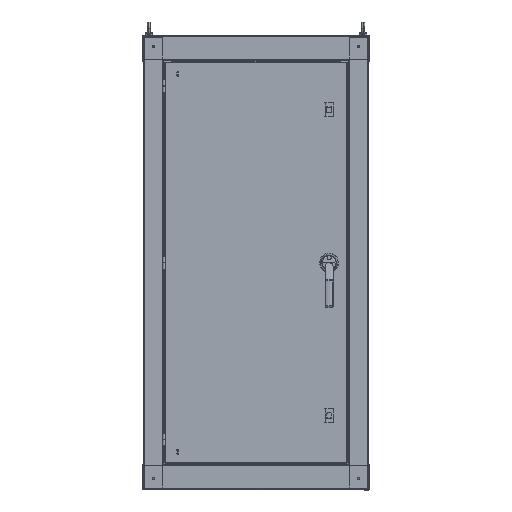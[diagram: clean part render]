
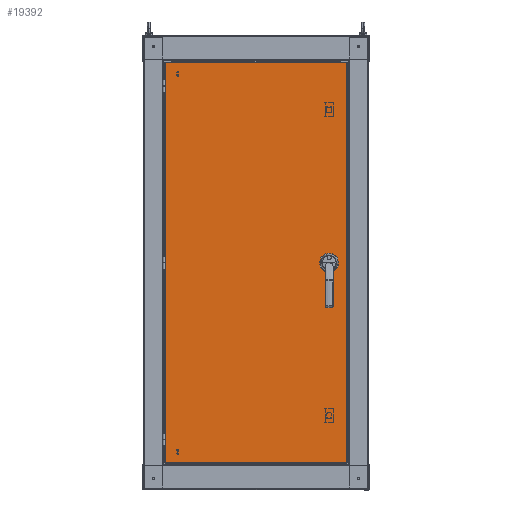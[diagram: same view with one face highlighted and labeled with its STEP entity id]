
A CAD part, top view. The second image highlights one B-rep face of the part: STEP entity #19392.
In plain terms, the highlighted planar face has unit normal (0, 0, 1) as drawn and (0, 0, -1) by its records, which use the part's own axes.
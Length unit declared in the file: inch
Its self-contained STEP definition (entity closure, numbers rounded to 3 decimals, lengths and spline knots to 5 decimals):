
#10344 = CARTESIAN_POINT ( 'NONE',  ( 12.498, 0., 0. ) ) ;
#10367 = DIRECTION ( 'NONE',  ( 0., 0., 1. ) ) ;
#10368 = DIRECTION ( 'NONE',  ( 1., 0., 0. ) ) ;
#10836 = CIRCLE ( 'NONE', #63385, 0.1405 ) ;
#10953 = CIRCLE ( 'NONE', #63414, 0.2815 ) ;
#11006 = CIRCLE ( 'NONE', #63421, 0.1245 ) ;
#13273 = CARTESIAN_POINT ( 'NONE',  ( 11.592, 0., 0. ) ) ;
#13274 = DIRECTION ( 'NONE',  ( 0., 0., 1. ) ) ;
#13275 = DIRECTION ( 'NONE',  ( 1., 0., 0. ) ) ;
#13381 = CARTESIAN_POINT ( 'NONE',  ( -12.408, -29.72, 0. ) ) ;
#13384 = DIRECTION ( 'NONE',  ( 0., 0., 1. ) ) ;
#13385 = DIRECTION ( 'NONE',  ( 1., 0., 0. ) ) ;
#16963 = CARTESIAN_POINT ( 'NONE',  ( -14.38016, 31.69, 0. ) ) ;
#16965 = DIRECTION ( 'NONE',  ( 1., 0., 0. ) ) ;
#16971 = CARTESIAN_POINT ( 'NONE',  ( -14.378, -31.69216, 0. ) ) ;
#17002 = CARTESIAN_POINT ( 'NONE',  ( 10.686, 0., 0. ) ) ;
#17011 = CARTESIAN_POINT ( 'NONE',  ( -12.408, -29.72, 0. ) ) ;
#17014 = DIRECTION ( 'NONE',  ( 0., 1., 0. ) ) ;
#17017 = DIRECTION ( 'NONE',  ( 0., 0., 1. ) ) ;
#17019 = DIRECTION ( 'NONE',  ( 1., 0., 0. ) ) ;
#17023 = DIRECTION ( 'NONE',  ( 0., 0., 1. ) ) ;
#17024 = DIRECTION ( 'NONE',  ( 1., 0., 0. ) ) ;
#17068 = CARTESIAN_POINT ( 'NONE',  ( 14.378, 31.69216, 0. ) ) ;
#17070 = CARTESIAN_POINT ( 'NONE',  ( -12.408, 29.72, 0. ) ) ;
#17085 = CARTESIAN_POINT ( 'NONE',  ( 14.38016, -31.69, 0. ) ) ;
#17087 = DIRECTION ( 'NONE',  ( -1., 0., 0. ) ) ;
#17092 = DIRECTION ( 'NONE',  ( 0., 0., 1. ) ) ;
#17093 = DIRECTION ( 'NONE',  ( 1., 0., 0. ) ) ;
#17095 = CARTESIAN_POINT ( 'NONE',  ( 12.498, 0., 0. ) ) ;
#17098 = DIRECTION ( 'NONE',  ( 0., -1., 0. ) ) ;
#17102 = DIRECTION ( 'NONE',  ( 0., 0., 1. ) ) ;
#17104 = DIRECTION ( 'NONE',  ( 1., 0., 0. ) ) ;
#17106 = CARTESIAN_POINT ( 'NONE',  ( 11.592, 0., 0. ) ) ;
#17121 = DIRECTION ( 'NONE',  ( 0., 0., 1. ) ) ;
#17123 = DIRECTION ( 'NONE',  ( 1., 0., 0. ) ) ;
#19392 = ADVANCED_FACE ( 'NONE', ( #54842, #54841, #54845, #54847, #54843, #54840 ), #59011, .F. ) ;
#19890 = VECTOR ( 'NONE', #16965, 39.37008 ) ;
#19897 = LINE ( 'NONE', #16971, #19908 ) ;
#19900 = LINE ( 'NONE', #16963, #19890 ) ;
#19908 = VECTOR ( 'NONE', #17014, 39.37008 ) ;
#19915 = CIRCLE ( 'NONE', #63619, 0.1245 ) ;
#19916 = CIRCLE ( 'NONE', #63618, 0.1405 ) ;
#19918 = VECTOR ( 'NONE', #17087, 39.37008 ) ;
#19922 = LINE ( 'NONE', #17085, #19918 ) ;
#19924 = VECTOR ( 'NONE', #17098, 39.37008 ) ;
#19926 = LINE ( 'NONE', #17068, #19924 ) ;
#19927 = CIRCLE ( 'NONE', #63625, 0.1245 ) ;
#19928 = CIRCLE ( 'NONE', #63626, 0.1405 ) ;
#19934 = CIRCLE ( 'NONE', #63629, 0.2815 ) ;
#25728 = EDGE_CURVE ( 'NONE', #69370, #69731, #10836, .T. ) ;
#25809 = EDGE_CURVE ( 'NONE', #69345, #70447, #10953, .T. ) ;
#25841 = EDGE_CURVE ( 'NONE', #69681, #69445, #11006, .T. ) ;
#26999 = CARTESIAN_POINT ( 'NONE',  ( 10.686, 0., 0. ) ) ;
#27003 = DIRECTION ( 'NONE',  ( 0., 0., 1. ) ) ;
#27004 = DIRECTION ( 'NONE',  ( 1., 0., 0. ) ) ;
#27196 = CARTESIAN_POINT ( 'NONE',  ( -12.408, 29.72, 0. ) ) ;
#27201 = DIRECTION ( 'NONE',  ( 0., 0., 1. ) ) ;
#27202 = DIRECTION ( 'NONE',  ( 1., 0., 0. ) ) ;
#27623 = CIRCLE ( 'NONE', #63796, 0.1405 ) ;
#27682 = CIRCLE ( 'NONE', #63800, 0.1245 ) ;
#29668 = CARTESIAN_POINT ( 'NONE',  ( 11.3105, 0., 0. ) ) ;
#29703 = CARTESIAN_POINT ( 'NONE',  ( -12.5325, 29.72, 0. ) ) ;
#29712 = CARTESIAN_POINT ( 'NONE',  ( 12.3575, 0., 0. ) ) ;
#29729 = CARTESIAN_POINT ( 'NONE',  ( 10.8265, 0., 0. ) ) ;
#29843 = CARTESIAN_POINT ( 'NONE',  ( -12.2835, -29.72, 0. ) ) ;
#30105 = CARTESIAN_POINT ( 'NONE',  ( -14.378, 31.69, 0. ) ) ;
#30257 = CARTESIAN_POINT ( 'NONE',  ( -12.5325, -29.72, 0. ) ) ;
#30351 = CARTESIAN_POINT ( 'NONE',  ( 12.6385, 0., 0. ) ) ;
#30570 = CARTESIAN_POINT ( 'NONE',  ( -12.2835, 29.72, 0. ) ) ;
#31229 = CARTESIAN_POINT ( 'NONE',  ( 14.378, -31.69, 0. ) ) ;
#31260 = CARTESIAN_POINT ( 'NONE',  ( 14.378, 31.69, 0. ) ) ;
#31430 = CARTESIAN_POINT ( 'NONE',  ( 10.5455, 0., 0. ) ) ;
#31563 = CARTESIAN_POINT ( 'NONE',  ( -14.378, -31.69, 0. ) ) ;
#31601 = CARTESIAN_POINT ( 'NONE',  ( 11.8735, 0., 0. ) ) ;
#42986 = EDGE_LOOP ( 'NONE', ( #71066, #70837 ) ) ;
#42990 = EDGE_LOOP ( 'NONE', ( #71072, #71089 ) ) ;
#42991 = EDGE_LOOP ( 'NONE', ( #71053, #71076 ) ) ;
#42993 = EDGE_LOOP ( 'NONE', ( #71056, #71058 ) ) ;
#42995 = EDGE_LOOP ( 'NONE', ( #70836, #70834, #70821, #70824 ) ) ;
#46422 = EDGE_LOOP ( 'NONE', ( #71040, #70879 ) ) ;
#49951 = AXIS2_PLACEMENT_3D ( 'NONE', #59012, #59021, #59022 ) ;
#54840 = FACE_OUTER_BOUND ( 'NONE', #42995, .T. ) ;
#54841 = FACE_BOUND ( 'NONE', #42991, .T. ) ;
#54842 = FACE_BOUND ( 'NONE', #46422, .T. ) ;
#54843 = FACE_BOUND ( 'NONE', #42986, .T. ) ;
#54845 = FACE_BOUND ( 'NONE', #42990, .T. ) ;
#54847 = FACE_BOUND ( 'NONE', #42993, .T. ) ;
#59011 = PLANE ( 'NONE',  #49951 ) ;
#59012 = CARTESIAN_POINT ( 'NONE',  ( -14.508, -31.82, 0. ) ) ;
#59021 = DIRECTION ( 'NONE',  ( 0., 0., 1. ) ) ;
#59022 = DIRECTION ( 'NONE',  ( 1., 0., 0. ) ) ;
#63385 = AXIS2_PLACEMENT_3D ( 'NONE', #10344, #10367, #10368 ) ;
#63414 = AXIS2_PLACEMENT_3D ( 'NONE', #13273, #13274, #13275 ) ;
#63421 = AXIS2_PLACEMENT_3D ( 'NONE', #13381, #13384, #13385 ) ;
#63618 = AXIS2_PLACEMENT_3D ( 'NONE', #17002, #17023, #17024 ) ;
#63619 = AXIS2_PLACEMENT_3D ( 'NONE', #17011, #17017, #17019 ) ;
#63625 = AXIS2_PLACEMENT_3D ( 'NONE', #17070, #17092, #17093 ) ;
#63626 = AXIS2_PLACEMENT_3D ( 'NONE', #17095, #17102, #17104 ) ;
#63629 = AXIS2_PLACEMENT_3D ( 'NONE', #17106, #17121, #17123 ) ;
#63796 = AXIS2_PLACEMENT_3D ( 'NONE', #26999, #27003, #27004 ) ;
#63800 = AXIS2_PLACEMENT_3D ( 'NONE', #27196, #27201, #27202 ) ;
#65557 = EDGE_CURVE ( 'NONE', #69595, #70244, #19900, .T. ) ;
#65562 = EDGE_CURVE ( 'NONE', #70424, #69595, #19897, .T. ) ;
#65563 = EDGE_CURVE ( 'NONE', #69445, #69681, #19915, .T. ) ;
#65564 = EDGE_CURVE ( 'NONE', #69380, #70345, #19916, .T. ) ;
#65573 = EDGE_CURVE ( 'NONE', #70227, #70424, #19922, .T. ) ;
#65574 = EDGE_CURVE ( 'NONE', #69851, #69365, #19927, .T. ) ;
#65575 = EDGE_CURVE ( 'NONE', #70244, #70227, #19926, .T. ) ;
#65576 = EDGE_CURVE ( 'NONE', #69731, #69370, #19928, .T. ) ;
#65579 = EDGE_CURVE ( 'NONE', #70447, #69345, #19934, .T. ) ;
#68932 = EDGE_CURVE ( 'NONE', #70345, #69380, #27623, .T. ) ;
#68971 = EDGE_CURVE ( 'NONE', #69365, #69851, #27682, .T. ) ;
#69345 = VERTEX_POINT ( 'NONE', #29668 ) ;
#69365 = VERTEX_POINT ( 'NONE', #29703 ) ;
#69370 = VERTEX_POINT ( 'NONE', #29712 ) ;
#69380 = VERTEX_POINT ( 'NONE', #29729 ) ;
#69445 = VERTEX_POINT ( 'NONE', #29843 ) ;
#69595 = VERTEX_POINT ( 'NONE', #30105 ) ;
#69681 = VERTEX_POINT ( 'NONE', #30257 ) ;
#69731 = VERTEX_POINT ( 'NONE', #30351 ) ;
#69851 = VERTEX_POINT ( 'NONE', #30570 ) ;
#70227 = VERTEX_POINT ( 'NONE', #31229 ) ;
#70244 = VERTEX_POINT ( 'NONE', #31260 ) ;
#70345 = VERTEX_POINT ( 'NONE', #31430 ) ;
#70424 = VERTEX_POINT ( 'NONE', #31563 ) ;
#70447 = VERTEX_POINT ( 'NONE', #31601 ) ;
#70821 = ORIENTED_EDGE ( 'NONE', *, *, #65575, .T. ) ;
#70824 = ORIENTED_EDGE ( 'NONE', *, *, #65573, .T. ) ;
#70834 = ORIENTED_EDGE ( 'NONE', *, *, #65557, .T. ) ;
#70836 = ORIENTED_EDGE ( 'NONE', *, *, #65562, .T. ) ;
#70837 = ORIENTED_EDGE ( 'NONE', *, *, #25809, .T. ) ;
#70879 = ORIENTED_EDGE ( 'NONE', *, *, #25841, .T. ) ;
#71040 = ORIENTED_EDGE ( 'NONE', *, *, #65563, .T. ) ;
#71053 = ORIENTED_EDGE ( 'NONE', *, *, #65574, .T. ) ;
#71056 = ORIENTED_EDGE ( 'NONE', *, *, #65576, .T. ) ;
#71058 = ORIENTED_EDGE ( 'NONE', *, *, #25728, .T. ) ;
#71066 = ORIENTED_EDGE ( 'NONE', *, *, #65579, .T. ) ;
#71072 = ORIENTED_EDGE ( 'NONE', *, *, #65564, .T. ) ;
#71076 = ORIENTED_EDGE ( 'NONE', *, *, #68971, .T. ) ;
#71089 = ORIENTED_EDGE ( 'NONE', *, *, #68932, .T. ) ;
